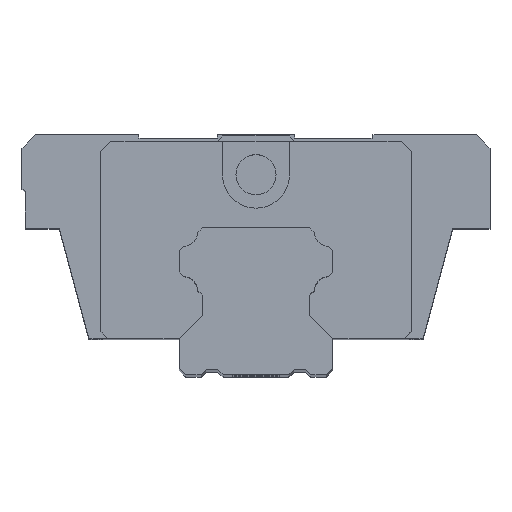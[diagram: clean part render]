
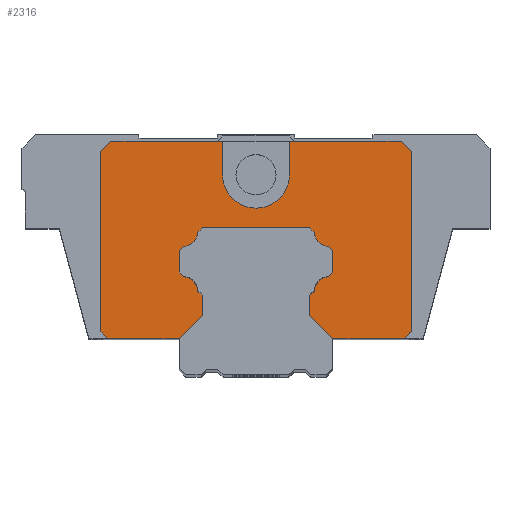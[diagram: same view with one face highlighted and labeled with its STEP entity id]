
A CAD part, top view. The second image highlights one B-rep face of the part: STEP entity #2316.
In plain terms, the highlighted planar face has unit normal (0, 0, 1).
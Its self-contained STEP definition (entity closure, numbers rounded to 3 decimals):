
#9=DIRECTION('',(-0.707,0.707,0.));
#10=VECTOR('',#9,0.918);
#11=CARTESIAN_POINT('',(8.699,21.351,52.));
#12=LINE('',#11,#10);
#17=CARTESIAN_POINT('',(10.995,21.495,52.));
#18=DIRECTION('',(0.,0.,-1.));
#19=DIRECTION('',(-0.063,-0.998,0.));
#20=AXIS2_PLACEMENT_3D('',#17,#18,#19);
#31=DIRECTION('',(0.,-1.,0.));
#32=VECTOR('',#31,5.);
#33=CARTESIAN_POINT('',(5.,35.,52.));
#34=LINE('',#33,#32);
#35=DIRECTION('',(0.,-1.,0.));
#36=VECTOR('',#35,5.);
#37=CARTESIAN_POINT('',(-5.,35.,52.));
#38=LINE('',#37,#36);
#39=CARTESIAN_POINT('',(0.,30.,52.));
#40=DIRECTION('',(0.,0.,1.));
#41=DIRECTION('',(-1.,0.,0.));
#42=AXIS2_PLACEMENT_3D('',#39,#40,#41);
#60=DIRECTION('',(1.,0.,0.));
#61=VECTOR('',#60,16.7);
#62=CARTESIAN_POINT('',(5.,35.,52.));
#63=LINE('',#62,#61);
#76=DIRECTION('',(1.,0.,0.));
#77=VECTOR('',#76,16.7);
#78=CARTESIAN_POINT('',(-21.7,35.,52.));
#79=LINE('',#78,#77);
#200=DIRECTION('',(-0.707,-0.707,0.));
#201=VECTOR('',#200,2.121);
#202=CARTESIAN_POINT('',(-21.7,35.,52.));
#203=LINE('',#202,#201);
#208=DIRECTION('',(0.,1.,0.));
#209=VECTOR('',#208,27.);
#210=CARTESIAN_POINT('',(-23.2,6.5,52.));
#211=LINE('',#210,#209);
#230=DIRECTION('',(0.707,-0.707,0.));
#231=VECTOR('',#230,1.414);
#232=CARTESIAN_POINT('',(-23.2,6.5,52.));
#233=LINE('',#232,#231);
#252=DIRECTION('',(-1.,0.,0.));
#253=VECTOR('',#252,10.7);
#254=CARTESIAN_POINT('',(-11.5,5.5,52.));
#255=LINE('',#254,#253);
#560=DIRECTION('',(1.,0.,0.));
#561=VECTOR('',#560,10.7);
#562=CARTESIAN_POINT('',(11.5,5.5,52.));
#563=LINE('',#562,#561);
#656=DIRECTION('',(-0.707,-0.707,0.));
#657=VECTOR('',#656,4.879);
#658=CARTESIAN_POINT('',(-8.05,8.95,52.));
#659=LINE('',#658,#657);
#668=DIRECTION('',(0.,1.,0.));
#669=VECTOR('',#668,3.);
#670=CARTESIAN_POINT('',(-8.05,8.95,52.));
#671=LINE('',#670,#669);
#680=DIRECTION('',(0.707,-0.707,0.));
#681=VECTOR('',#680,0.918);
#682=CARTESIAN_POINT('',(-8.699,12.599,52.));
#683=LINE('',#682,#681);
#692=CARTESIAN_POINT('',(-10.995,12.455,52.));
#693=DIRECTION('',(0.,0.,-1.));
#694=DIRECTION('',(0.063,0.998,0.));
#695=AXIS2_PLACEMENT_3D('',#692,#693,#694);
#706=DIRECTION('',(0.707,-0.707,0.));
#707=VECTOR('',#706,0.918);
#708=CARTESIAN_POINT('',(-11.5,15.4,52.));
#709=LINE('',#708,#707);
#718=DIRECTION('',(0.,1.,0.));
#719=VECTOR('',#718,3.15);
#720=CARTESIAN_POINT('',(-11.5,15.4,52.));
#721=LINE('',#720,#719);
#730=DIRECTION('',(-0.707,-0.707,0.));
#731=VECTOR('',#730,0.918);
#732=CARTESIAN_POINT('',(-10.851,19.199,52.));
#733=LINE('',#732,#731);
#742=CARTESIAN_POINT('',(-10.995,21.495,52.));
#743=DIRECTION('',(0.,0.,-1.));
#744=DIRECTION('',(0.998,-0.063,0.));
#745=AXIS2_PLACEMENT_3D('',#742,#743,#744);
#760=DIRECTION('',(-0.707,-0.707,0.));
#761=VECTOR('',#760,0.918);
#762=CARTESIAN_POINT('',(-8.05,22.,52.));
#763=LINE('',#762,#761);
#772=DIRECTION('',(1.,0.,0.));
#773=VECTOR('',#772,16.1);
#774=CARTESIAN_POINT('',(-8.05,22.,52.));
#775=LINE('',#774,#773);
#776=DIRECTION('',(-0.707,0.707,0.));
#777=VECTOR('',#776,0.918);
#778=CARTESIAN_POINT('',(11.5,18.55,52.));
#779=LINE('',#778,#777);
#788=DIRECTION('',(0.,1.,0.));
#789=VECTOR('',#788,3.15);
#790=CARTESIAN_POINT('',(11.5,15.4,52.));
#791=LINE('',#790,#789);
#800=DIRECTION('',(0.707,0.707,0.));
#801=VECTOR('',#800,0.918);
#802=CARTESIAN_POINT('',(10.851,14.751,52.));
#803=LINE('',#802,#801);
#812=CARTESIAN_POINT('',(10.995,12.455,52.));
#813=DIRECTION('',(0.,0.,-1.));
#814=DIRECTION('',(-0.998,0.063,0.));
#815=AXIS2_PLACEMENT_3D('',#812,#813,#814);
#826=DIRECTION('',(0.707,0.707,0.));
#827=VECTOR('',#826,0.918);
#828=CARTESIAN_POINT('',(8.05,11.95,52.));
#829=LINE('',#828,#827);
#838=DIRECTION('',(0.,1.,0.));
#839=VECTOR('',#838,3.);
#840=CARTESIAN_POINT('',(8.05,8.95,52.));
#841=LINE('',#840,#839);
#850=DIRECTION('',(-0.707,0.707,0.));
#851=VECTOR('',#850,4.879);
#852=CARTESIAN_POINT('',(11.5,5.5,52.));
#853=LINE('',#852,#851);
#858=DIRECTION('',(0.707,0.707,0.));
#859=VECTOR('',#858,1.414);
#860=CARTESIAN_POINT('',(22.2,5.5,52.));
#861=LINE('',#860,#859);
#866=DIRECTION('',(0.,1.,0.));
#867=VECTOR('',#866,27.);
#868=CARTESIAN_POINT('',(23.2,6.5,52.));
#869=LINE('',#868,#867);
#880=DIRECTION('',(-0.707,0.707,0.));
#881=VECTOR('',#880,2.121);
#882=CARTESIAN_POINT('',(23.2,33.5,52.));
#883=LINE('',#882,#881);
#1928=CARTESIAN_POINT('',(8.699,21.351,52.));
#1929=CARTESIAN_POINT('',(8.05,22.,52.));
#1930=VERTEX_POINT('',#1928);
#1931=VERTEX_POINT('',#1929);
#1932=CARTESIAN_POINT('',(10.851,19.199,52.));
#1933=VERTEX_POINT('',#1932);
#1934=CARTESIAN_POINT('',(11.5,18.55,52.));
#1935=VERTEX_POINT('',#1934);
#1936=CARTESIAN_POINT('',(11.5,15.4,52.));
#1937=VERTEX_POINT('',#1936);
#1938=CARTESIAN_POINT('',(10.851,14.751,52.));
#1939=VERTEX_POINT('',#1938);
#1940=CARTESIAN_POINT('',(8.699,12.599,52.));
#1941=VERTEX_POINT('',#1940);
#1942=CARTESIAN_POINT('',(8.05,11.95,52.));
#1943=VERTEX_POINT('',#1942);
#1944=CARTESIAN_POINT('',(8.05,8.95,52.));
#1945=VERTEX_POINT('',#1944);
#1946=CARTESIAN_POINT('',(11.5,5.5,52.));
#1947=VERTEX_POINT('',#1946);
#1948=CARTESIAN_POINT('',(22.2,5.5,52.));
#1949=VERTEX_POINT('',#1948);
#1950=CARTESIAN_POINT('',(23.2,33.5,52.));
#1951=CARTESIAN_POINT('',(21.7,35.,52.));
#1952=VERTEX_POINT('',#1950);
#1953=VERTEX_POINT('',#1951);
#1954=CARTESIAN_POINT('',(23.2,6.5,52.));
#1955=VERTEX_POINT('',#1954);
#1956=CARTESIAN_POINT('',(-8.05,22.,52.));
#1957=VERTEX_POINT('',#1956);
#1958=CARTESIAN_POINT('',(-11.5,5.5,52.));
#1959=CARTESIAN_POINT('',(-22.2,5.5,52.));
#1960=VERTEX_POINT('',#1958);
#1961=VERTEX_POINT('',#1959);
#1962=CARTESIAN_POINT('',(-8.05,8.95,52.));
#1963=VERTEX_POINT('',#1962);
#1964=CARTESIAN_POINT('',(-8.05,11.95,52.));
#1965=VERTEX_POINT('',#1964);
#1966=CARTESIAN_POINT('',(-8.699,12.599,52.));
#1967=VERTEX_POINT('',#1966);
#1968=CARTESIAN_POINT('',(-10.851,14.751,52.));
#1969=VERTEX_POINT('',#1968);
#1970=CARTESIAN_POINT('',(-11.5,15.4,52.));
#1971=VERTEX_POINT('',#1970);
#1972=CARTESIAN_POINT('',(-11.5,18.55,52.));
#1973=VERTEX_POINT('',#1972);
#1974=CARTESIAN_POINT('',(-10.851,19.199,52.));
#1975=VERTEX_POINT('',#1974);
#1976=CARTESIAN_POINT('',(-8.699,21.351,52.));
#1977=VERTEX_POINT('',#1976);
#1978=CARTESIAN_POINT('',(-23.2,6.5,52.));
#1979=VERTEX_POINT('',#1978);
#1980=CARTESIAN_POINT('',(-23.2,33.5,52.));
#1981=VERTEX_POINT('',#1980);
#1982=CARTESIAN_POINT('',(-21.7,35.,52.));
#1983=VERTEX_POINT('',#1982);
#2052=CARTESIAN_POINT('',(5.,35.,52.));
#2053=VERTEX_POINT('',#2052);
#2054=CARTESIAN_POINT('',(-5.,35.,52.));
#2055=VERTEX_POINT('',#2054);
#2056=CARTESIAN_POINT('',(5.,30.,52.));
#2057=VERTEX_POINT('',#2056);
#2058=CARTESIAN_POINT('',(-5.,30.,52.));
#2059=VERTEX_POINT('',#2058);
#2247=CARTESIAN_POINT('',(23.2,35.,52.));
#2248=DIRECTION('',(0.,0.,1.));
#2249=DIRECTION('',(-1.,0.,0.));
#2250=AXIS2_PLACEMENT_3D('',#2247,#2248,#2249);
#2251=PLANE('',#2250);
#2253=ORIENTED_EDGE('',*,*,#2252,.F.);
#2255=ORIENTED_EDGE('',*,*,#2254,.T.);
#2257=ORIENTED_EDGE('',*,*,#2256,.F.);
#2259=ORIENTED_EDGE('',*,*,#2258,.F.);
#2261=ORIENTED_EDGE('',*,*,#2260,.F.);
#2263=ORIENTED_EDGE('',*,*,#2262,.F.);
#2265=ORIENTED_EDGE('',*,*,#2264,.T.);
#2267=ORIENTED_EDGE('',*,*,#2266,.T.);
#2269=ORIENTED_EDGE('',*,*,#2268,.T.);
#2271=ORIENTED_EDGE('',*,*,#2270,.T.);
#2273=ORIENTED_EDGE('',*,*,#2272,.T.);
#2275=ORIENTED_EDGE('',*,*,#2274,.T.);
#2277=ORIENTED_EDGE('',*,*,#2276,.T.);
#2278=ORIENTED_EDGE('',*,*,#2238,.T.);
#2279=ORIENTED_EDGE('',*,*,#2227,.T.);
#2281=ORIENTED_EDGE('',*,*,#2280,.F.);
#2283=ORIENTED_EDGE('',*,*,#2282,.T.);
#2285=ORIENTED_EDGE('',*,*,#2284,.T.);
#2287=ORIENTED_EDGE('',*,*,#2286,.T.);
#2289=ORIENTED_EDGE('',*,*,#2288,.F.);
#2291=ORIENTED_EDGE('',*,*,#2290,.T.);
#2293=ORIENTED_EDGE('',*,*,#2292,.T.);
#2295=ORIENTED_EDGE('',*,*,#2294,.T.);
#2297=ORIENTED_EDGE('',*,*,#2296,.F.);
#2299=ORIENTED_EDGE('',*,*,#2298,.T.);
#2301=ORIENTED_EDGE('',*,*,#2300,.T.);
#2303=ORIENTED_EDGE('',*,*,#2302,.F.);
#2305=ORIENTED_EDGE('',*,*,#2304,.T.);
#2307=ORIENTED_EDGE('',*,*,#2306,.F.);
#2309=ORIENTED_EDGE('',*,*,#2308,.T.);
#2311=ORIENTED_EDGE('',*,*,#2310,.T.);
#2313=ORIENTED_EDGE('',*,*,#2312,.T.);
#2314=EDGE_LOOP('',(#2253,#2255,#2257,#2259,#2261,#2263,#2265,#2267,#2269,#2271,
#2273,#2275,#2277,#2278,#2279,#2281,#2283,#2285,#2287,#2289,#2291,#2293,#2295,
#2297,#2299,#2301,#2303,#2305,#2307,#2309,#2311,#2313));
#2315=FACE_OUTER_BOUND('',#2314,.F.);
#2316=ADVANCED_FACE('',(#2315),#2251,.T.);
#21=CIRCLE('',#20,2.3);
#43=CIRCLE('',#42,5.);
#696=CIRCLE('',#695,2.3);
#746=CIRCLE('',#745,2.3);
#816=CIRCLE('',#815,2.3);
#2227=EDGE_CURVE('',#1930,#1931,#12,.T.);
#2238=EDGE_CURVE('',#1933,#1930,#21,.T.);
#2252=EDGE_CURVE('',#2053,#2057,#34,.T.);
#2254=EDGE_CURVE('',#2053,#1953,#63,.T.);
#2256=EDGE_CURVE('',#1952,#1953,#883,.T.);
#2258=EDGE_CURVE('',#1955,#1952,#869,.T.);
#2260=EDGE_CURVE('',#1949,#1955,#861,.T.);
#2262=EDGE_CURVE('',#1947,#1949,#563,.T.);
#2264=EDGE_CURVE('',#1947,#1945,#853,.T.);
#2266=EDGE_CURVE('',#1945,#1943,#841,.T.);
#2268=EDGE_CURVE('',#1943,#1941,#829,.T.);
#2270=EDGE_CURVE('',#1941,#1939,#816,.T.);
#2272=EDGE_CURVE('',#1939,#1937,#803,.T.);
#2274=EDGE_CURVE('',#1937,#1935,#791,.T.);
#2276=EDGE_CURVE('',#1935,#1933,#779,.T.);
#2280=EDGE_CURVE('',#1957,#1931,#775,.T.);
#2282=EDGE_CURVE('',#1957,#1977,#763,.T.);
#2284=EDGE_CURVE('',#1977,#1975,#746,.T.);
#2286=EDGE_CURVE('',#1975,#1973,#733,.T.);
#2288=EDGE_CURVE('',#1971,#1973,#721,.T.);
#2290=EDGE_CURVE('',#1971,#1969,#709,.T.);
#2292=EDGE_CURVE('',#1969,#1967,#696,.T.);
#2294=EDGE_CURVE('',#1967,#1965,#683,.T.);
#2296=EDGE_CURVE('',#1963,#1965,#671,.T.);
#2298=EDGE_CURVE('',#1963,#1960,#659,.T.);
#2300=EDGE_CURVE('',#1960,#1961,#255,.T.);
#2302=EDGE_CURVE('',#1979,#1961,#233,.T.);
#2304=EDGE_CURVE('',#1979,#1981,#211,.T.);
#2306=EDGE_CURVE('',#1983,#1981,#203,.T.);
#2308=EDGE_CURVE('',#1983,#2055,#79,.T.);
#2310=EDGE_CURVE('',#2055,#2059,#38,.T.);
#2312=EDGE_CURVE('',#2059,#2057,#43,.T.);
